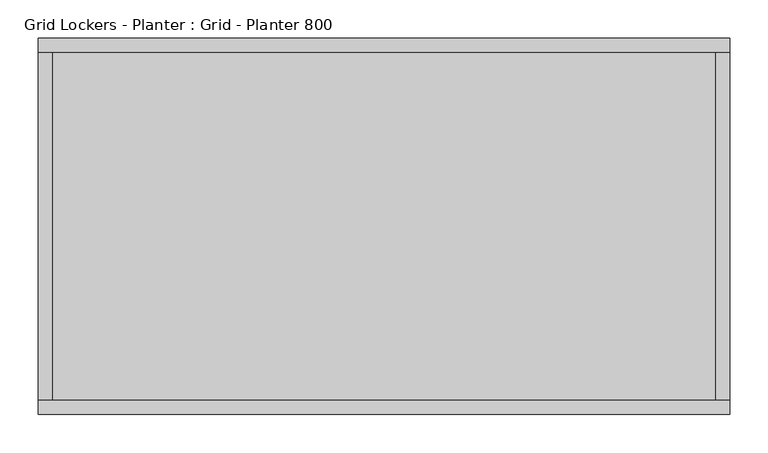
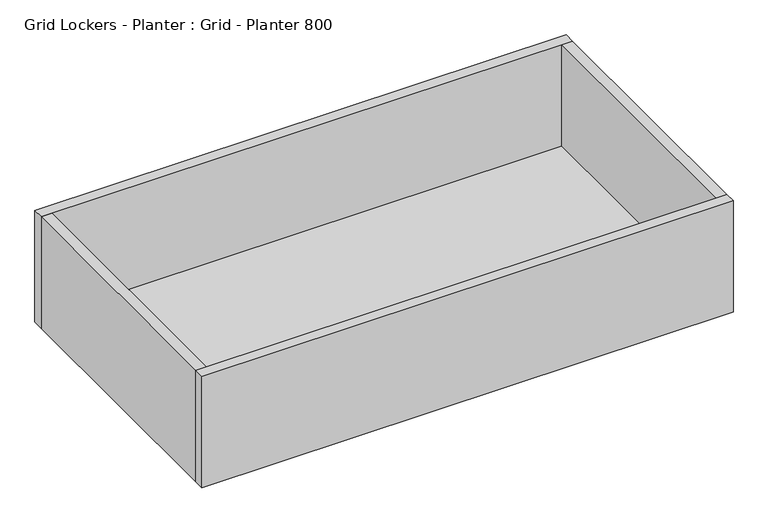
"""IFC4 building model written with IfcOpenShell, lengths in millimetres: furniture geometry, Grid Lockers - Planter : Grid - Planter 800."""

from ifc_helpers import new_model, si_unit, origin, origin_with_axes, place, context, project, spatial, polyline, outline, extrude, source, transform, mapped, element, save


def grid_lockers_planter_grid_planter_800_faa34271(model_context):
    return source(origin(), model_context, "Body", "SweptSolid", [
        extrude(outline(polyline([(0.0, -18.0), (0.0, 0.0), (900.0, 0.0), (900.0, -18.0), (0.0, -18.0)])), origin_with_axes(), (0.0, 0.0, 1.0), 200.0),
        extrude(outline(polyline([(0.0, -490.0), (0.0, -472.0), (900.0, -472.0), (900.0, -490.0), (0.0, -490.0)])), origin_with_axes(), (0.0, 0.0, 1.0), 200.0),
        extrude(outline(polyline([(882.0, -18.0), (900.0, -18.0), (900.0, -472.0), (882.0, -472.0), (882.0, -18.0)])), origin_with_axes(), (0.0, 0.0, 1.0), 200.0),
        extrude(outline(polyline([(0.0, -18.0), (18.0, -18.0), (18.0, -472.0), (0.0, -472.0), (0.0, -18.0)])), origin_with_axes(), (0.0, 0.0, 1.0), 200.0),
        extrude(outline(polyline([(882.0, -472.0), (18.0, -472.0), (18.0, -18.0), (882.0, -18.0), (882.0, -472.0)])), origin_with_axes(), (0.0, 0.0, 1.0), 18.0),
    ])


if __name__ == "__main__":
    model = new_model("IFC4")
    model_context = context("Model", 3, world=origin())
    ifc_project = project(units=[si_unit("LENGTHUNIT", "METRE", prefix="MILLI")], contexts=[model_context])
    site = spatial("IfcSite", under=ifc_project)
    building = spatial("IfcBuilding", under=site)
    placement = place(None, origin())
    grid_lockers_planter_grid_planter_800_shape = grid_lockers_planter_grid_planter_800_faa34271(model_context)
    element("IfcFurniture", 1, ObjectType="Grid Lockers - Planter : Grid - Planter 800", at=placement, inside=building, context=model_context, shape_type="MappedRepresentation", body=[
        mapped(grid_lockers_planter_grid_planter_800_shape, transform((0.0, 0.0, 0.0), x_axis=(1.0, 0.0, 0.0), y_axis=(0.0, 1.0, 0.0), z_axis=(0.0, 0.0, 1.0))),
    ])
    save(model, "model.ifc")
